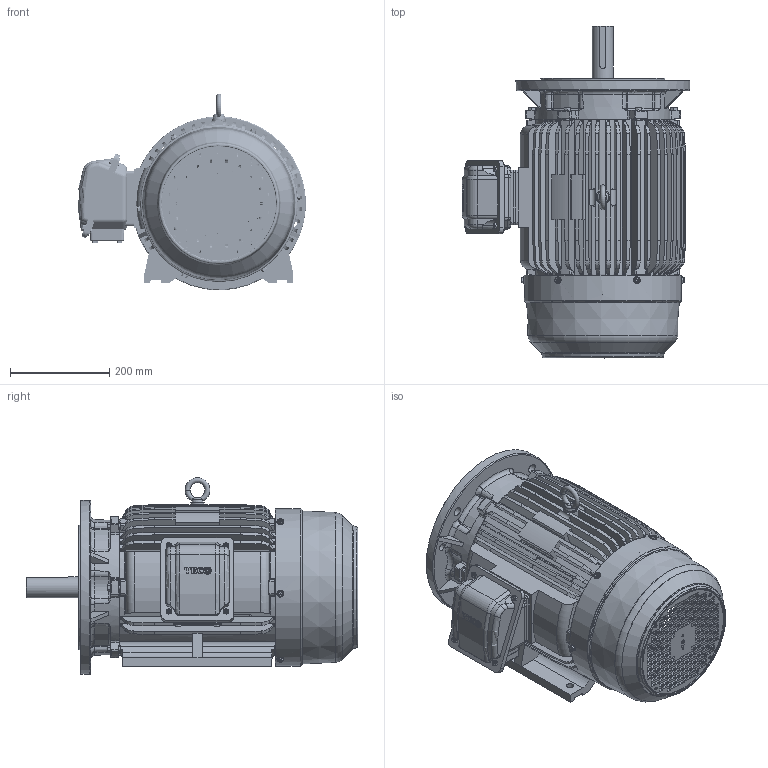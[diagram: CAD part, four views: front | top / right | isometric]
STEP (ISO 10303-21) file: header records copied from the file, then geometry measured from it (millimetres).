
FILE_DESCRIPTION(/* description */ (''),/* implementation_level */ '2;1');
FILE_NAME(/* name */ 'C:/Users/Luigi_Zhang/Desktop/160L-HV_AllCATPart_no cone.step',/* time_stamp */ '2019-11-27T09:18:40+11:00',/* author */ (''),/* organization */ (''),/* preprocessor_version */ 'ST-DEVELOPER v18',/* originating_system */ 'Autodesk Translation Framework v8.9.1.1155',/* authorisation */ '');
FILE_SCHEMA (('AUTOMOTIVE_DESIGN { 1 0 10303 214 3 1 1 }'));
Length unit declared in the file: millimetre
Products named in the file (1): (Unsaved)
Bounding box: 458.09 x 668 x 395.99 mm (x, y, z)
Volume: 9646124.8 mm3; surface area: 2411842.3 mm2
Topology: 43 solids, 43 shells, 5272 faces, 15217 edges, 10096 vertices
Faces by surface type: plane 2851, cylinder 1472, torus 359, cone 295, bspline 264, sphere 31
Full cylindrical faces by diameter (mm): 0.01 x3, 4.917 x8, 5 x1, 5.854 x4, 6 x12, 6.5 x4, 6.647 x18, 7 x10, 7.805 x16, 7.9 x1, 8.88 x4, 9.8 x1, 10 x14, 10.106 x1, 10.25 x1, 11.63 x16, 12 x1, 14 x6, 14.376 x2, 14.5 x4, 18.5 x4, 28 x2, 35 x1, 38.5 x1, 39 x1, 42 x1, 45 x1, 45.5 x1, 49.4 x1, 50 x1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
Entity records: 198224 total; most frequent: CARTESIAN_POINT 58231, ORIENTED_EDGE 30320, DIRECTION 28558, EDGE_CURVE 15160, AXIS2_PLACEMENT_3D 10360, VERTEX_POINT 10096, LINE 7838, VECTOR 7838
